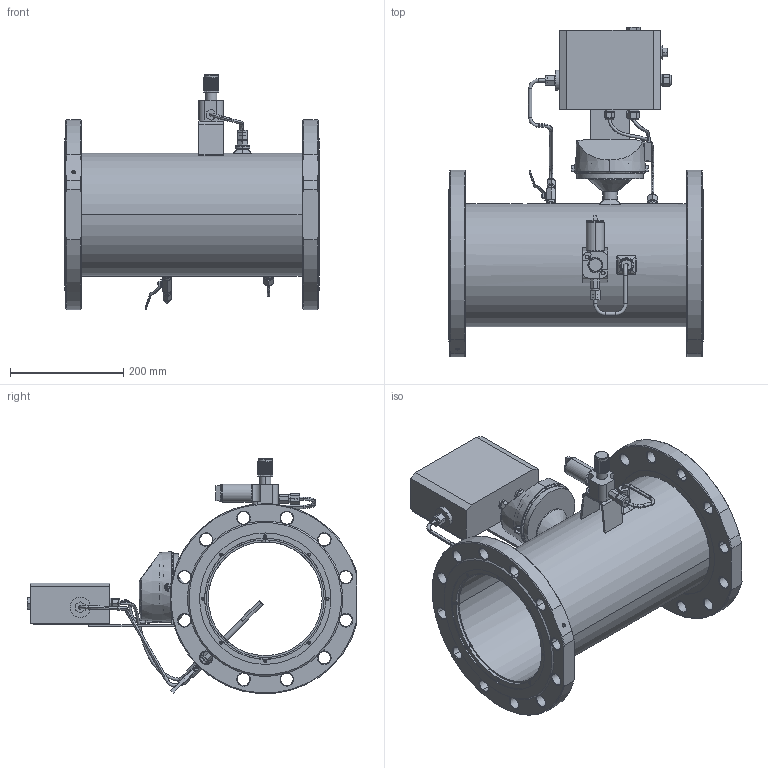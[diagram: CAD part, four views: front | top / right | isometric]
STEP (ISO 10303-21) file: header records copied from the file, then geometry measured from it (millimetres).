
FILE_DESCRIPTION((''),'2;1');
FILE_NAME('SG_SUPERFLOW_DY200_L_ASM','2020-12-23T',('solovki'),(''),'CREO PARAMETRIC BY PTC INC, 2018360','CREO PARAMETRIC BY PTC INC, 2018360','');
FILE_SCHEMA(('AUTOMOTIVE_DESIGN { 1 0 10303 214 1 1 1 1 }'));
Length unit declared in the file: millimetre
Products named in the file (29): 803_AF6; 804_AF4; 805_AF4; 806_AF1; 807_AF1; 808_AF3; 808_AF2; 809_AF1; 802_AF4_ASM; 810; 811; 812; 813; 801_AF1_ASM; 816; 817; 818; 819; 820; 821; 823; 824; 825; 826; 827; 822_ASM; 828; 829; SG_SUPERFLOW_DY200_L_ASM
Assembly tree (31 placements, depth 4):
  SG_SUPERFLOW_DY200_L_ASM
    801_AF1_ASM
      802_AF4_ASM
        803_AF6
        804_AF4
        805_AF4
        806_AF1
        807_AF1
        808_AF3
        808_AF2
        809_AF1
      810
      811
      812  x2
      813
    816
    817
    818
    819
    820
    821
    822_ASM
      823
      824
      825
      826
      827  x2
    828
    812
    829
Bounding box: 450 x 582.5 x 415.11 mm (x, y, z)
Volume: 7185477.3 mm3; surface area: 1325619 mm2
Topology: 28 solids, 62 shells, 1437 faces, 3532 edges, 2216 vertices
Faces by surface type: plane 538, cylinder 538, cone 247, torus 49, bspline 42, sphere 22, extrusion 1
Entity records: 66622 total; most frequent: CARTESIAN_POINT 11817, DIRECTION 7312, ORIENTED_EDGE 6554, PRESENTATION_STYLE_ASSIGNMENT 4765, STYLED_ITEM 4765, EDGE_CURVE 3358, CURVE_STYLE 3347, AXIS2_PLACEMENT_3D 2855
